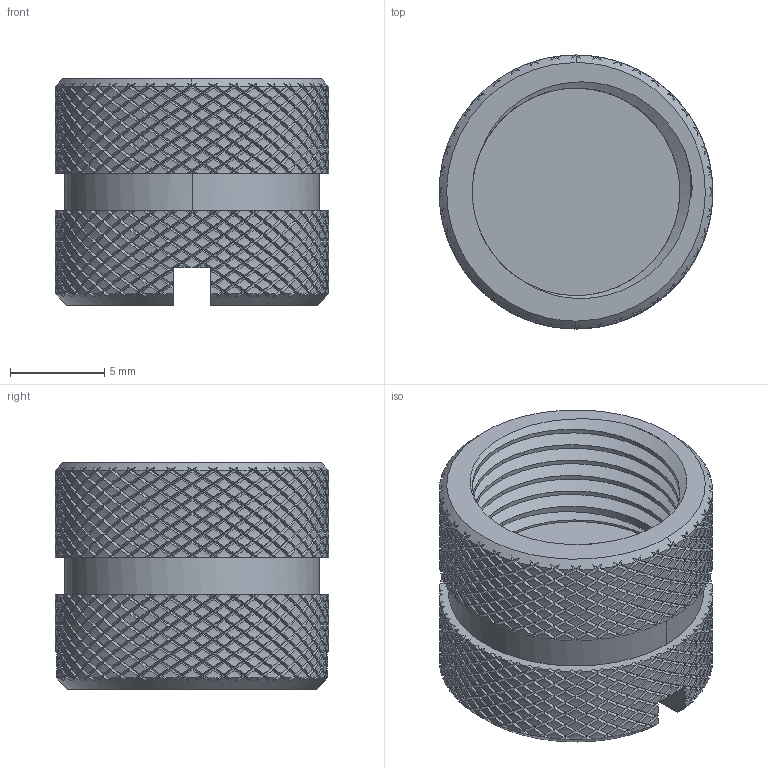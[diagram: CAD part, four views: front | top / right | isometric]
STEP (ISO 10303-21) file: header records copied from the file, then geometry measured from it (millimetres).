
FILE_DESCRIPTION (( 'STEP AP203' ), '1' );
FILE_NAME ('858-MDC-SS.STEP', '2026-01-26T14:22:06', ( '' ), ( '' ), 'SwSTEP 2.0', 'SolidWorks 2020', '' );
FILE_SCHEMA (( 'CONFIG_CONTROL_DESIGN' ));
Length unit declared in the file: millimetre
Products named in the file (1): 858-MDC-SS
Bounding box: 14.5 x 14.5 x 12 mm (x, y, z)
Volume: 1201.3 mm3; surface area: 1542.6 mm2
Topology: 1 solids, 1 shells, 5389 faces, 11126 edges, 5742 vertices
Faces by surface type: bspline 4293, cylinder 1083, plane 9, cone 4
Entity records: 233611 total; most frequent: CARTESIAN_POINT 157464, ORIENTED_EDGE 22252, EDGE_CURVE 11126, B_SPLINE_CURVE_WITH_KNOTS 10670, VERTEX_POINT 5742, EDGE_LOOP 5392, FACE_OUTER_BOUND 5389, ADVANCED_FACE 5389
